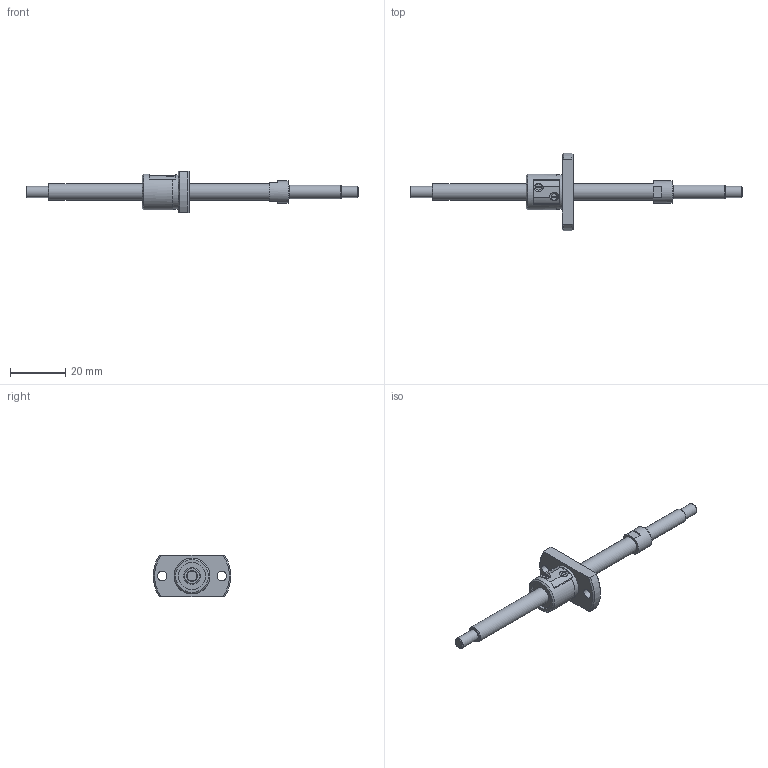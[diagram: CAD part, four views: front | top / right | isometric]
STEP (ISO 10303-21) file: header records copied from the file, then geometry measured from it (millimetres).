
FILE_DESCRIPTION(/* description */ ('STEP AP214'),/* implementation_level */ '2;1');
FILE_NAME(/* name */ 'SG0601-077R120C5C0X(34)',/* time_stamp */ '2026-07-20T20:12:03+02:00',/* author */ ('License CC BY-ND 4.0'),/* organization */ ('CADENAS'),/* preprocessor_version */ 'ST-DEVELOPER v20',/* originating_system */ 'PARTsolutions',/* authorisation */ ' ');
FILE_SCHEMA (('AUTOMOTIVE_DESIGN {1 0 10303 214 3 1 1}'));
Length unit declared in the file: millimetre
Products named in the file (3): SG0601-077R120C5C0X(34); SG0601-77R120C5C_shaft; SG0601 C5_nut
Assembly tree (2 placements, depth 2):
  SG0601-077R120C5C0X(34)
    SG0601-77R120C5C_shaft
    SG0601 C5_nut
Bounding box: 120 x 27.91 x 15 mm (x, y, z)
Volume: 5749.2 mm3; surface area: 4232.7 mm2
Topology: 2 solids, 2 shells, 74 faces, 179 edges, 118 vertices
Faces by surface type: plane 35, cylinder 24, cone 14, torus 1
Full cylindrical faces by diameter (mm): 3.4 x2, 4 x2, 5 x1, 6 x2, 8 x1, 10 x2, 12.6 x1, 13 x1
Entity records: 2087 total; most frequent: CARTESIAN_POINT 391, DIRECTION 352, ORIENTED_EDGE 292, AXIS2_PLACEMENT_3D 147, EDGE_CURVE 146, EDGE_LOOP 112, FACE_BOUND 112, VERTEX_POINT 108
